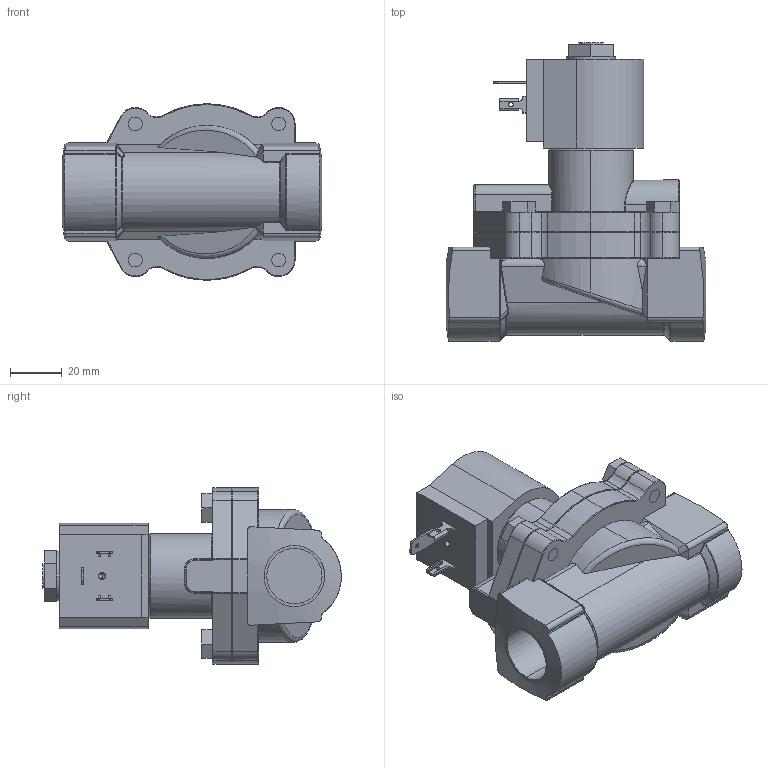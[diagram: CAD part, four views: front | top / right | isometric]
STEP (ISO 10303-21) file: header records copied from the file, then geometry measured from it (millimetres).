
FILE_DESCRIPTION (( 'STEP AP203' ), '1' );
FILE_NAME ('H211Y_4E.STEP', '2022-09-19T20:46:01', ( '' ), ( '' ), 'SwSTEP 2.0', 'SolidWorks 2022', '' );
FILE_SCHEMA (( 'CONFIG_CONTROL_DESIGN' ));
Length unit declared in the file: inch
Products named in the file (1): H211Y_4E
Bounding box: 100.17 x 115.07 x 67.94 mm (x, y, z)
Volume: 256976.5 mm3; surface area: 36898.1 mm2
Topology: 1 solids, 1 shells, 448 faces, 1085 edges, 651 vertices
Faces by surface type: plane 163, cylinder 149, bspline 130, cone 6
Entity records: 17832 total; most frequent: CARTESIAN_POINT 8132, ORIENTED_EDGE 2162, DIRECTION 1836, EDGE_CURVE 1081, AXIS2_PLACEMENT_3D 678, VERTEX_POINT 651, VECTOR 480, LINE 480
